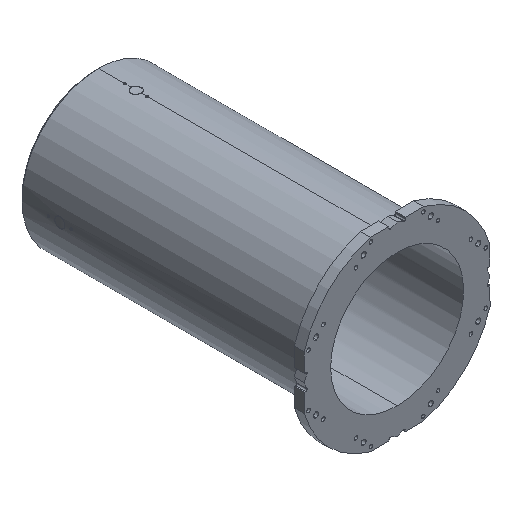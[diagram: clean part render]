
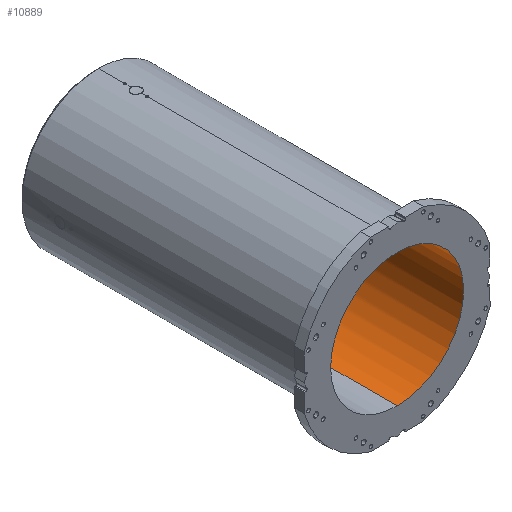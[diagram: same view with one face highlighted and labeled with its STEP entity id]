
A CAD part, isometric view. The second image highlights one B-rep face of the part: STEP entity #10889.
In plain terms, the highlighted cylindrical face has radius 265 mm (diameter 530 mm), a partial arc.
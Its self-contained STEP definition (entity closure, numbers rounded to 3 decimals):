
#365 = EDGE_CURVE ( 'NONE', #11317, #11846, #11251, .T. ) ;
#641 = FACE_OUTER_BOUND ( 'NONE', #4750, .T. ) ;
#1591 = DIRECTION ( 'NONE',  ( 0., -1., 0. ) ) ;
#2502 = CIRCLE ( 'NONE', #6582, 265. ) ;
#2678 = VERTEX_POINT ( 'NONE', #6513 ) ;
#2757 = DIRECTION ( 'NONE',  ( 0., 0., -1. ) ) ;
#2869 = DIRECTION ( 'NONE',  ( 0., -1., 0. ) ) ;
#3541 = CARTESIAN_POINT ( 'NONE',  ( 0., 0., 265. ) ) ;
#3655 = ORIENTED_EDGE ( 'NONE', *, *, #3863, .T. ) ;
#3859 = CARTESIAN_POINT ( 'NONE',  ( 0., 1163., -265. ) ) ;
#3863 = EDGE_CURVE ( 'NONE', #2678, #9191, #2502, .T. ) ;
#3951 = LINE ( 'NONE', #6978, #6436 ) ;
#4176 = ORIENTED_EDGE ( 'NONE', *, *, #12960, .T. ) ;
#4750 = EDGE_LOOP ( 'NONE', ( #13032, #3655, #4176, #6307 ) ) ;
#6307 = ORIENTED_EDGE ( 'NONE', *, *, #365, .T. ) ;
#6436 = VECTOR ( 'NONE', #2869, 1000. ) ;
#6497 = AXIS2_PLACEMENT_3D ( 'NONE', #9038, #8215, #2757 ) ;
#6513 = CARTESIAN_POINT ( 'NONE',  ( 0., 1163., 265. ) ) ;
#6582 = AXIS2_PLACEMENT_3D ( 'NONE', #7556, #11535, #12687 ) ;
#6647 = DIRECTION ( 'NONE',  ( 0., -1., 0. ) ) ;
#6809 = DIRECTION ( 'NONE',  ( 0., 0., -1. ) ) ;
#6978 = CARTESIAN_POINT ( 'NONE',  ( 0., 0., -265. ) ) ;
#7246 = VECTOR ( 'NONE', #6647, 1000. ) ;
#7556 = CARTESIAN_POINT ( 'NONE',  ( 0., 1163., 0. ) ) ;
#8215 = DIRECTION ( 'NONE',  ( 0., -1., 0. ) ) ;
#8327 = AXIS2_PLACEMENT_3D ( 'NONE', #9672, #1591, #6809 ) ;
#8479 = LINE ( 'NONE', #3541, #7246 ) ;
#9038 = CARTESIAN_POINT ( 'NONE',  ( 0., 0., 0. ) ) ;
#9191 = VERTEX_POINT ( 'NONE', #3859 ) ;
#9378 = CARTESIAN_POINT ( 'NONE',  ( 0., 0., 265. ) ) ;
#9490 = CARTESIAN_POINT ( 'NONE',  ( 0., 0., -265. ) ) ;
#9672 = CARTESIAN_POINT ( 'NONE',  ( 0., 0., 0. ) ) ;
#10889 = ADVANCED_FACE ( 'NONE', ( #641 ), #12819, .F. ) ;
#11251 = CIRCLE ( 'NONE', #6497, 265. ) ;
#11317 = VERTEX_POINT ( 'NONE', #9490 ) ;
#11444 = EDGE_CURVE ( 'NONE', #2678, #11846, #8479, .T. ) ;
#11535 = DIRECTION ( 'NONE',  ( 0., 1., 0. ) ) ;
#11846 = VERTEX_POINT ( 'NONE', #9378 ) ;
#12687 = DIRECTION ( 'NONE',  ( 0., 0., -1. ) ) ;
#12819 = CYLINDRICAL_SURFACE ( 'NONE', #8327, 265. ) ;
#12960 = EDGE_CURVE ( 'NONE', #9191, #11317, #3951, .T. ) ;
#13032 = ORIENTED_EDGE ( 'NONE', *, *, #11444, .F. ) ;
